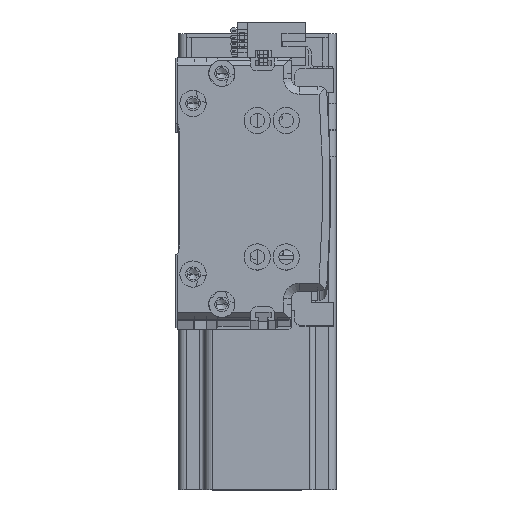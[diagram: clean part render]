
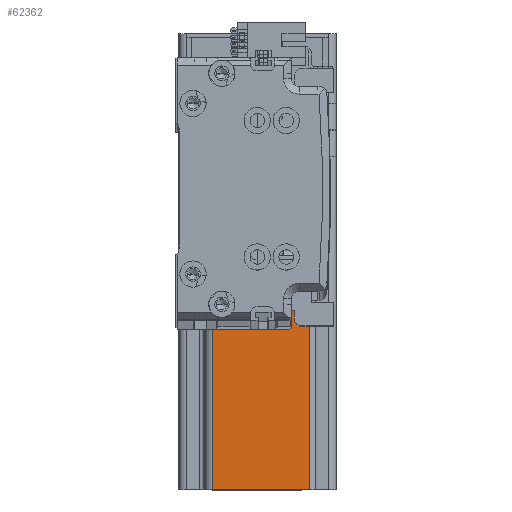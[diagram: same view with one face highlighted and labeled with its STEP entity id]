
A CAD part, top view. The second image highlights one B-rep face of the part: STEP entity #62362.
In plain terms, the highlighted planar face has unit normal (0, 0, 1) as drawn and (-1, 0, 0) by its records, which use the part's own axes.
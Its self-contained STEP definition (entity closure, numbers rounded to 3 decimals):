
#1666 = ORIENTED_EDGE ( 'NONE', *, *, #13150, .F. ) ;
#1796 = VECTOR ( 'NONE', #3464, 1000. ) ;
#2282 = DIRECTION ( 'NONE',  ( 0., 0., 1. ) ) ;
#3464 = DIRECTION ( 'NONE',  ( 0., -1., 0. ) ) ;
#3473 = DIRECTION ( 'NONE',  ( 0., 0., -1. ) ) ;
#3509 = LINE ( 'NONE', #11218, #56085 ) ;
#4070 = EDGE_CURVE ( 'NONE', #40990, #33194, #56373, .T. ) ;
#4763 = CARTESIAN_POINT ( 'NONE',  ( -30., -17., 137. ) ) ;
#7533 = VECTOR ( 'NONE', #53405, 1000. ) ;
#7732 = CARTESIAN_POINT ( 'NONE',  ( -30., -30., 137. ) ) ;
#8809 = LINE ( 'NONE', #64491, #61363 ) ;
#9357 = VECTOR ( 'NONE', #45628, 1000. ) ;
#9570 = EDGE_CURVE ( 'NONE', #35159, #54973, #8809, .T. ) ;
#10564 = CARTESIAN_POINT ( 'NONE',  ( -30., 27., 0. ) ) ;
#11019 = ORIENTED_EDGE ( 'NONE', *, *, #4070, .T. ) ;
#11218 = CARTESIAN_POINT ( 'NONE',  ( -30., -30., 0. ) ) ;
#11587 = VECTOR ( 'NONE', #53553, 1000. ) ;
#12813 = FACE_OUTER_BOUND ( 'NONE', #19617, .T. ) ;
#12833 = DIRECTION ( 'NONE',  ( 0., 0., -1. ) ) ;
#13150 = EDGE_CURVE ( 'NONE', #59527, #13292, #53881, .T. ) ;
#13292 = VERTEX_POINT ( 'NONE', #49483 ) ;
#13741 = EDGE_CURVE ( 'NONE', #40990, #45261, #48156, .T. ) ;
#14027 = CARTESIAN_POINT ( 'NONE',  ( -30., -27., 10. ) ) ;
#15362 = LINE ( 'NONE', #23787, #1796 ) ;
#19617 = EDGE_LOOP ( 'NONE', ( #37148, #11019, #61887, #1666, #59987, #53758, #56361, #19758 ) ) ;
#19758 = ORIENTED_EDGE ( 'NONE', *, *, #63961, .T. ) ;
#23787 = CARTESIAN_POINT ( 'NONE',  ( -30., -30., 137. ) ) ;
#24494 = LINE ( 'NONE', #35936, #9357 ) ;
#25240 = VECTOR ( 'NONE', #2282, 1000. ) ;
#26508 = CARTESIAN_POINT ( 'NONE',  ( -30., 20., 10. ) ) ;
#27008 = EDGE_CURVE ( 'NONE', #13292, #33194, #15362, .T. ) ;
#28252 = CARTESIAN_POINT ( 'NONE',  ( -30., -27., 137. ) ) ;
#31724 = DIRECTION ( 'NONE',  ( 0., -1., 0. ) ) ;
#33194 = VERTEX_POINT ( 'NONE', #4763 ) ;
#33756 = EDGE_CURVE ( 'NONE', #59527, #35159, #24494, .T. ) ;
#34800 = AXIS2_PLACEMENT_3D ( 'NONE', #7732, #43322, #12833 ) ;
#35159 = VERTEX_POINT ( 'NONE', #62700 ) ;
#35936 = CARTESIAN_POINT ( 'NONE',  ( -30., 30., 10. ) ) ;
#37148 = ORIENTED_EDGE ( 'NONE', *, *, #13741, .F. ) ;
#39712 = CARTESIAN_POINT ( 'NONE',  ( -30., -17., 10. ) ) ;
#40990 = VERTEX_POINT ( 'NONE', #39712 ) ;
#41264 = EDGE_CURVE ( 'NONE', #54973, #44813, #3509, .T. ) ;
#42840 = VECTOR ( 'NONE', #54146, 1000. ) ;
#43322 = DIRECTION ( 'NONE',  ( 1., 0., 0. ) ) ;
#43857 = CARTESIAN_POINT ( 'NONE',  ( -30., -30., 10. ) ) ;
#43921 = CARTESIAN_POINT ( 'NONE',  ( -30., -17., 137. ) ) ;
#44813 = VERTEX_POINT ( 'NONE', #64150 ) ;
#45261 = VERTEX_POINT ( 'NONE', #14027 ) ;
#45628 = DIRECTION ( 'NONE',  ( 0., 1., 0. ) ) ;
#48156 = LINE ( 'NONE', #43857, #7533 ) ;
#49483 = CARTESIAN_POINT ( 'NONE',  ( -30., 20., 137. ) ) ;
#53325 = PLANE ( 'NONE',  #34800 ) ;
#53405 = DIRECTION ( 'NONE',  ( 0., -1., 0. ) ) ;
#53553 = DIRECTION ( 'NONE',  ( 0., 0., 1. ) ) ;
#53758 = ORIENTED_EDGE ( 'NONE', *, *, #9570, .T. ) ;
#53881 = LINE ( 'NONE', #63094, #25240 ) ;
#54146 = DIRECTION ( 'NONE',  ( 0., 0., 1. ) ) ;
#54973 = VERTEX_POINT ( 'NONE', #10564 ) ;
#56085 = VECTOR ( 'NONE', #31724, 1000. ) ;
#56361 = ORIENTED_EDGE ( 'NONE', *, *, #41264, .T. ) ;
#56373 = LINE ( 'NONE', #43921, #42840 ) ;
#59527 = VERTEX_POINT ( 'NONE', #26508 ) ;
#59987 = ORIENTED_EDGE ( 'NONE', *, *, #33756, .T. ) ;
#61363 = VECTOR ( 'NONE', #3473, 1000. ) ;
#61887 = ORIENTED_EDGE ( 'NONE', *, *, #27008, .F. ) ;
#62362 = ADVANCED_FACE ( 'NONE', ( #12813 ), #53325, .F. ) ;
#62700 = CARTESIAN_POINT ( 'NONE',  ( -30., 27., 10. ) ) ;
#63094 = CARTESIAN_POINT ( 'NONE',  ( -30., 20., 10. ) ) ;
#63961 = EDGE_CURVE ( 'NONE', #44813, #45261, #65726, .T. ) ;
#64150 = CARTESIAN_POINT ( 'NONE',  ( -30., -27., 0. ) ) ;
#64491 = CARTESIAN_POINT ( 'NONE',  ( -30., 27., 137. ) ) ;
#65726 = LINE ( 'NONE', #28252, #11587 ) ;
